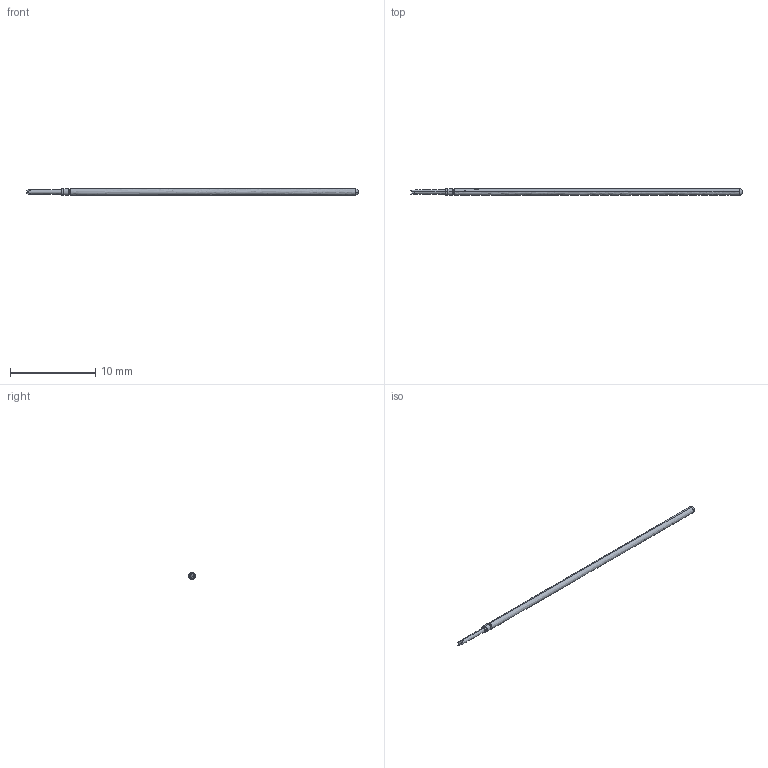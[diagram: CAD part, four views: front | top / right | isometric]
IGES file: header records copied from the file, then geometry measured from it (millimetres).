
Start section: SolidWorks IGES file using analytic representation for surfaces
Global section: file name: L:\probe solid model mockups\Solidworks models\POGO-72U RECD.IGS; native system: SolidWorks 2006 by SolidWorks Corporation; preprocessor: SolidWorks 2006 by SolidWorks Corporation; author: Ksnyder; date: 071211.140242; units: inch
Bounding box: 38.94 x 0.79 x 0.79 mm (x, y, z)
Surface area: 175.6 mm2
Topology: 1 solids, 1 shells, 24 faces, 52 edges, 29 vertices
Faces by surface type: revolution 16, plane 8
